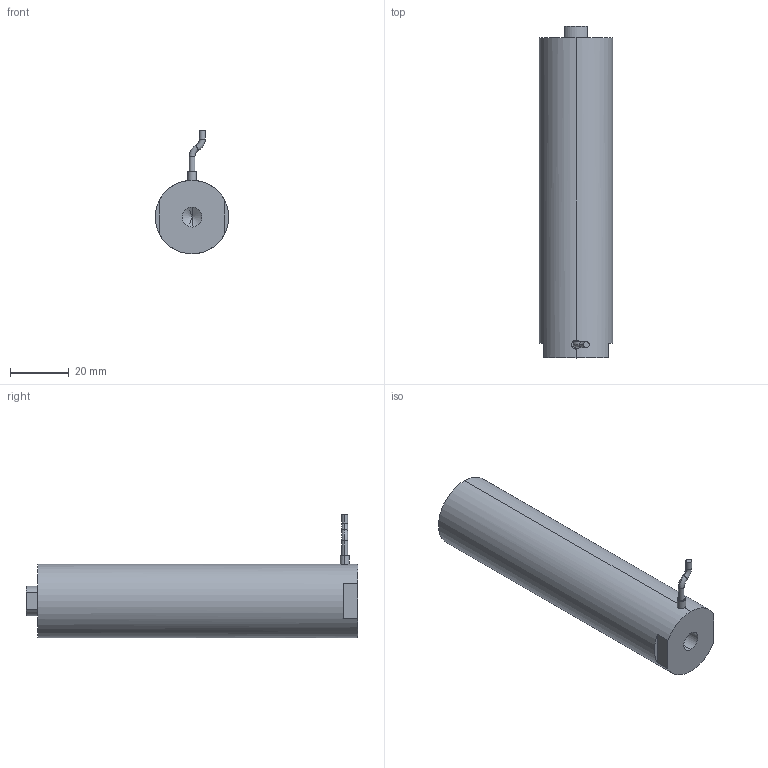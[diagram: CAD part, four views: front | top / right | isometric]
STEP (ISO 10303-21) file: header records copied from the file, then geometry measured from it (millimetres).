
FILE_DESCRIPTION (( 'STEP AP203' ), '1' );
FILE_NAME ('ﾄﾚﾂﾝﾎﾆﾊｽ100VS25.STEP', '2021-07-08T07:18:01', ( 'ﾎ｢ﾈ橆ﾃｻｧ' ), ( 'ﾎ｢ﾈ晥ｫﾋｾ' ), 'SwSTEP 2.0', 'SolidWorks 2016', '' );
FILE_SCHEMA (( 'CONFIG_CONTROL_DESIGN' ));
Length unit declared in the file: millimetre
Products named in the file (1): 囀蹟恇宒100VS25
Bounding box: 25 x 113 x 42.06 mm (x, y, z)
Volume: 53134.1 mm3; surface area: 10169.3 mm2
Topology: 1 solids, 1 shells, 943 faces, 2555 edges, 1696 vertices
Faces by surface type: bspline 517, plane 311, cylinder 107, torus 4, cone 4
Entity records: 45115 total; most frequent: CARTESIAN_POINT 25973, ORIENTED_EDGE 5094, EDGE_CURVE 2547, DIRECTION 1967, B_SPLINE_CURVE_WITH_KNOTS 1710, VERTEX_POINT 1694, EDGE_LOOP 1031, FACE_OUTER_BOUND 943
